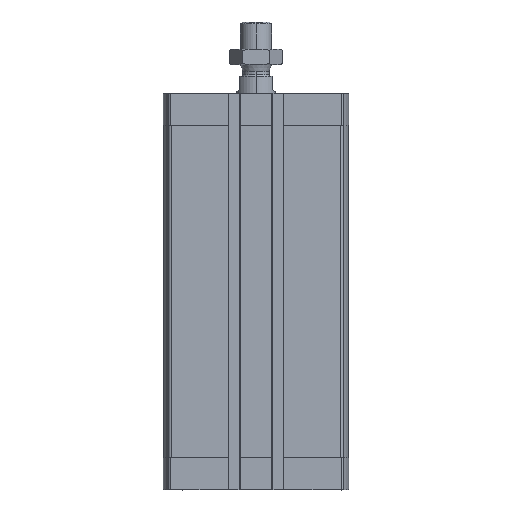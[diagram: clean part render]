
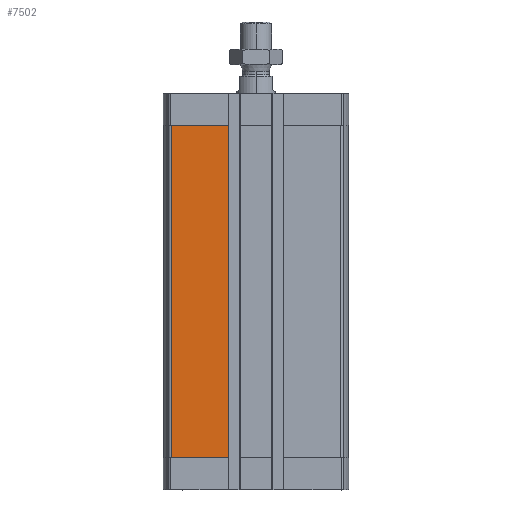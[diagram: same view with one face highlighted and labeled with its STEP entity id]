
A CAD part, left-side view. The second image highlights one B-rep face of the part: STEP entity #7502.
In plain terms, the highlighted planar face has unit normal (-1, 0, 0).
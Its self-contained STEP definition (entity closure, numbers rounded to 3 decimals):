
#674 = EDGE_CURVE ( 'NONE', #1267, #16196, #12774, .T. ) ;
#1130 = EDGE_LOOP ( 'NONE', ( #1935, #14265, #10036, #5380 ) ) ;
#1141 = VERTEX_POINT ( 'NONE', #5202 ) ;
#1267 = VERTEX_POINT ( 'NONE', #2639 ) ;
#1637 = EDGE_CURVE ( 'NONE', #1141, #1267, #7416, .T. ) ;
#1935 = ORIENTED_EDGE ( 'NONE', *, *, #11228, .T. ) ;
#2166 = DIRECTION ( 'NONE',  ( 0., 0., 1. ) ) ;
#2420 = VERTEX_POINT ( 'NONE', #11646 ) ;
#2639 = CARTESIAN_POINT ( 'NONE',  ( -47.5, 14.3, -16.5 ) ) ;
#2860 = AXIS2_PLACEMENT_3D ( 'NONE', #15605, #15601, #15552 ) ;
#2912 = VECTOR ( 'NONE', #9725, 1000. ) ;
#3906 = LINE ( 'NONE', #9920, #2912 ) ;
#4665 = CARTESIAN_POINT ( 'NONE',  ( -47.5, 0., -16.5 ) ) ;
#4701 = DIRECTION ( 'NONE',  ( 0., 1., 0. ) ) ;
#4711 = CARTESIAN_POINT ( 'NONE',  ( -47.5, 14.3, -187.5 ) ) ;
#5202 = CARTESIAN_POINT ( 'NONE',  ( -47.5, 14.3, -187.5 ) ) ;
#5380 = ORIENTED_EDGE ( 'NONE', *, *, #7086, .T. ) ;
#6344 = FACE_OUTER_BOUND ( 'NONE', #1130, .T. ) ;
#7086 = EDGE_CURVE ( 'NONE', #16196, #2420, #3906, .T. ) ;
#7416 = LINE ( 'NONE', #4711, #7438 ) ;
#7438 = VECTOR ( 'NONE', #2166, 1000. ) ;
#7502 = ADVANCED_FACE ( 'NONE', ( #6344 ), #15624, .T. ) ;
#8425 = LINE ( 'NONE', #10665, #11778 ) ;
#9725 = DIRECTION ( 'NONE',  ( 0., 0., -1. ) ) ;
#9920 = CARTESIAN_POINT ( 'NONE',  ( -47.5, 43.743, -187.5 ) ) ;
#10036 = ORIENTED_EDGE ( 'NONE', *, *, #674, .T. ) ;
#10665 = CARTESIAN_POINT ( 'NONE',  ( -47.5, 43.743, -187.5 ) ) ;
#10894 = DIRECTION ( 'NONE',  ( 0., -1., 0. ) ) ;
#11228 = EDGE_CURVE ( 'NONE', #2420, #1141, #8425, .T. ) ;
#11646 = CARTESIAN_POINT ( 'NONE',  ( -47.5, 43.743, -187.5 ) ) ;
#11778 = VECTOR ( 'NONE', #10894, 1000. ) ;
#12573 = VECTOR ( 'NONE', #4701, 1000. ) ;
#12774 = LINE ( 'NONE', #4665, #12573 ) ;
#14265 = ORIENTED_EDGE ( 'NONE', *, *, #1637, .T. ) ;
#15552 = DIRECTION ( 'NONE',  ( 0., 0., 1. ) ) ;
#15574 = CARTESIAN_POINT ( 'NONE',  ( -47.5, 43.743, -16.5 ) ) ;
#15601 = DIRECTION ( 'NONE',  ( -1., 0., 0. ) ) ;
#15605 = CARTESIAN_POINT ( 'NONE',  ( -47.5, 43.743, -187.5 ) ) ;
#15624 = PLANE ( 'NONE',  #2860 ) ;
#16196 = VERTEX_POINT ( 'NONE', #15574 ) ;
